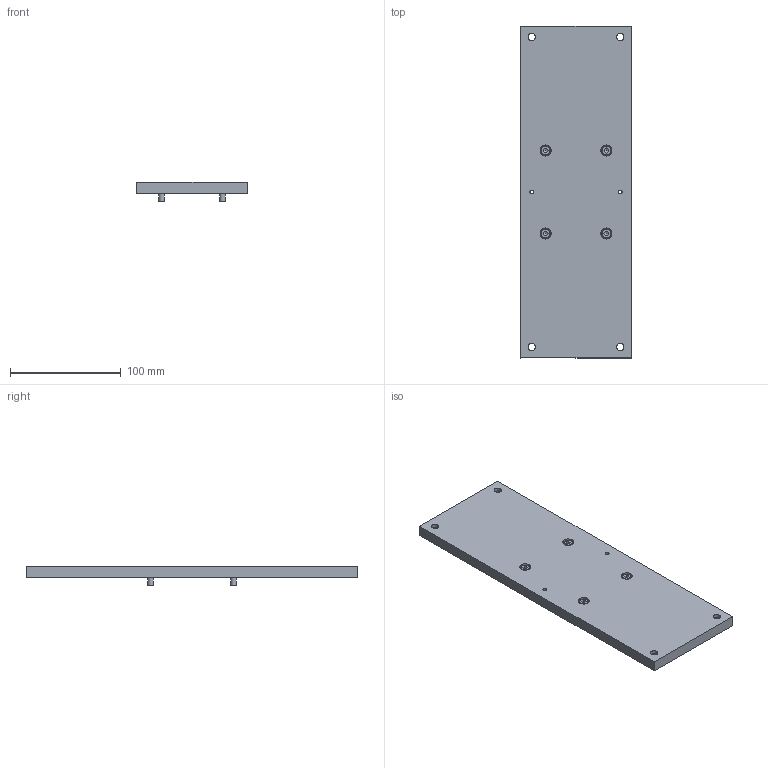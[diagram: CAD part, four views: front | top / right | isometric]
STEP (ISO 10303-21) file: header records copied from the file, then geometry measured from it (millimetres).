
FILE_DESCRIPTION(/* description */ ('Base pour 159-008-4...'),/* implementation_level */ '2;1');
FILE_NAME(/* name */ 'S:\Bureau-Technique\Dispositif\MA 155-062-01.stp',/* time_stamp */ '2019-02-28T08:53:23+01:00',/* author */ ('ms'),/* organization */ ('Marcel Aubert'),/* preprocessor_version */ 'ST-DEVELOPER v17.2',/* originating_system */ 'Autodesk Inventor 2019',/* authorisation */ '');
FILE_SCHEMA (('CONFIG_CONTROL_DESIGN'));
Length unit declared in the file: millimetre
Products named in the file (3): MA 155-062-01; PLQ-412-01; ISO 4762 - M5 x 12
Assembly tree (5 placements, depth 2):
  MA 155-062-01
    PLQ-412-01
    ISO 4762 - M5 x 12  x4
Bounding box: 100 x 300 x 17.7 mm (x, y, z)
Volume: 296510.1 mm3; surface area: 71776.1 mm2
Topology: 5 solids, 5 shells, 92 faces, 248 edges, 178 vertices
Faces by surface type: plane 50, cylinder 26, torus 8, cone 8
Full cylindrical faces by diameter (mm): 3.242 x2, 5 x4, 5.5 x4, 6.6 x4, 8.5 x4, 10 x4, 11 x4
Entity records: 1700 total; most frequent: DIRECTION 298, CARTESIAN_POINT 284, ORIENTED_EDGE 248, AXIS2_PLACEMENT_3D 126, EDGE_CURVE 124, VERTEX_POINT 91, EDGE_LOOP 77, CIRCLE 71
